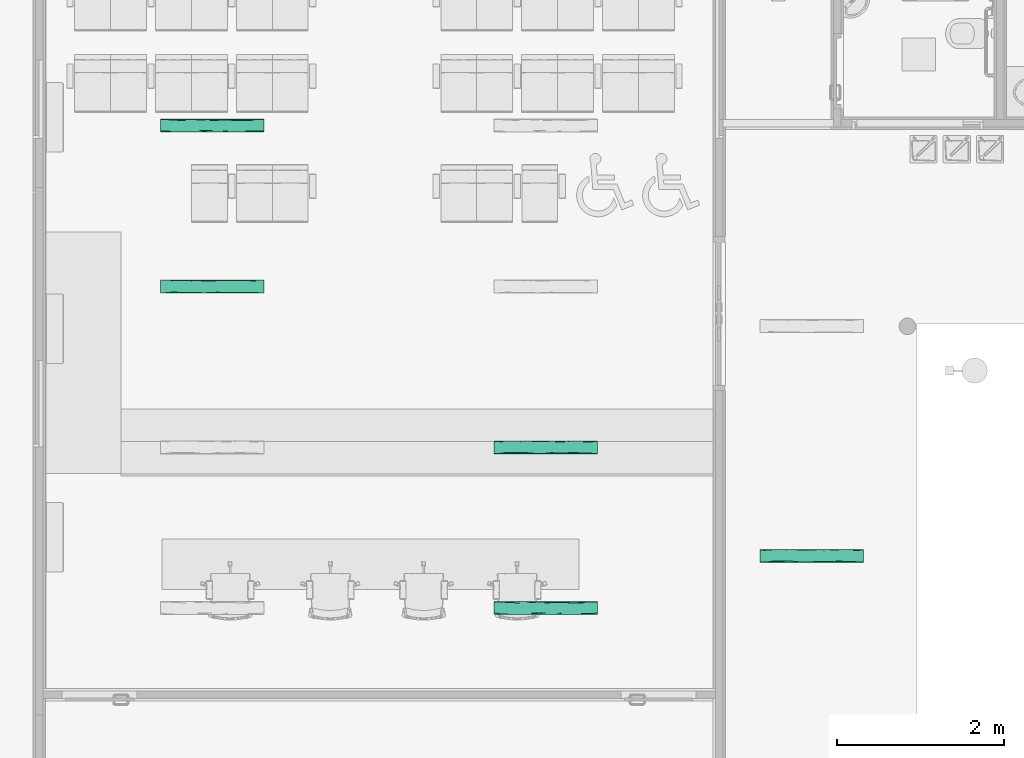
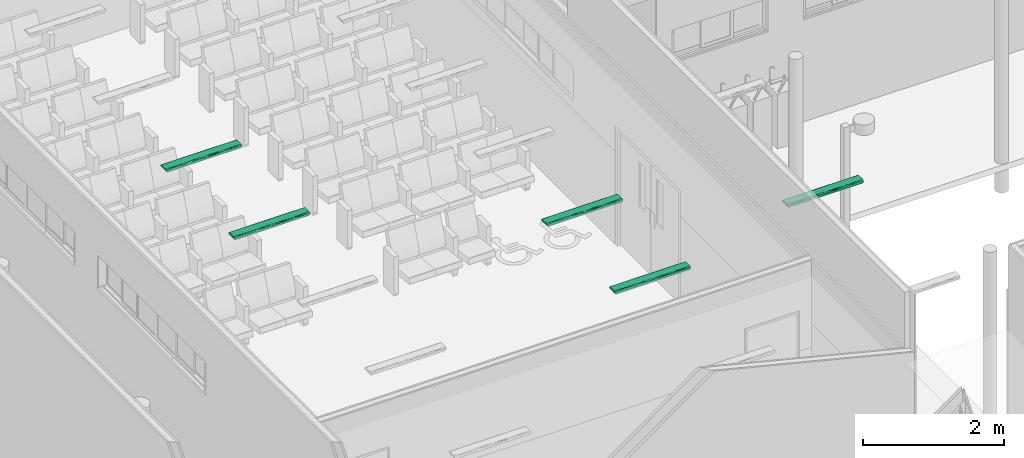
# One storey, part 58 of 155: 5 flow terminals.
"""IFC2X3 building model written with IfcOpenShell, lengths in metres."""

import ifcopenshell
import ifcopenshell.guid

model = None  # the IFC model being written
_history = None  # IfcOwnerHistory: only IFC2X3 demands one
_inside = {}  # id of a spatial element -> (the spatial element, [elements in it])
_under = {}  # id of a project, library or spatial element -> (it, [spatial elements below it])
_declared = {}  # id of a project -> (the project, [libraries it declares])
_typed = {}  # id of a type object -> (the type object, [elements of that type])
_made_of = {}  # id of a material, layer set ... -> (it, [elements and type objects made of it])


def new_model(schema):
    """Start an empty IFC model of exactly this schema.

    Asked for "IFC4X3", IfcOpenShell would pick the latest addendum, in which some entities
    have other attributes; the version numbers below select the first issue.
    IFC2X3 requires an IfcOwnerHistory on every rooted entity: one is made here for all.
    """
    global model, _history
    if schema == "IFC4X3":
        model = ifcopenshell.file(schema_version=(4, 3, 0, 0))
    else:
        model = ifcopenshell.file(schema=schema)
    _inside.clear()
    _under.clear()
    _declared.clear()
    _typed.clear()
    _made_of.clear()
    _history = None
    if model.schema == "IFC2X3":
        org = make("IfcOrganization", Name="unknown")
        user = make(
            "IfcPersonAndOrganization",
            ThePerson=make("IfcPerson", FamilyName="unknown"),
            TheOrganization=org,
        )
        app = make(
            "IfcApplication",
            ApplicationDeveloper=org,
            Version="unknown",
            ApplicationFullName="unknown",
            ApplicationIdentifier="unknown",
        )
        _history = make(
            "IfcOwnerHistory",
            OwningUser=user,
            OwningApplication=app,
            ChangeAction="ADDED",
            CreationDate=0,
        )
    return model


def make(cls, **values):
    """One entity of the class cls with the attributes given. An attribute that is None is left unset."""
    return model.create_entity(
        cls, **{name: value for name, value in values.items() if value is not None}
    )


def entity(cls, *values):
    """Any entity or typed value of the class cls, its attributes in the order of the schema. None: left unset."""
    e = model.create_entity(cls)
    for i, value in enumerate(values):
        if value is not None:
            e[i] = value
    return e


def rooted(cls, **values):
    """An entity with a GlobalId (a new one), such as an element, a storey or a relation."""
    return make(cls, GlobalId=ifcopenshell.guid.new(), OwnerHistory=_history, **values)


def si_unit(unit_type, name, prefix=None):
    """IfcSIUnit, for example si_unit("LENGTHUNIT", "METRE", prefix="MILLI")."""
    return make("IfcSIUnit", UnitType=unit_type, Prefix=prefix, Name=name)


def converted_unit(unit_type, name, factor, base, dimensions=None, offset=None):
    """IfcConversionBasedUnit, such as the inch: factor (a typed value) times the base unit."""
    return make(
        "IfcConversionBasedUnit"
        if offset is None
        else "IfcConversionBasedUnitWithOffset",
        ConversionOffset=offset,
        Dimensions=None
        if dimensions is None
        else entity("IfcDimensionalExponents", *dimensions),
        UnitType=unit_type,
        Name=name,
        ConversionFactor=make(
            "IfcMeasureWithUnit", ValueComponent=factor, UnitComponent=base
        ),
    )


def derived_unit(unit_type, elements):
    """IfcDerivedUnit: a product of units, each with its exponent."""
    return make(
        "IfcDerivedUnit",
        Elements=[
            make("IfcDerivedUnitElement", Unit=unit, Exponent=power)
            for unit, power in elements
        ],
        UnitType=unit_type,
    )


def assignment(units):
    """IfcUnitAssignment: the units of a project."""
    return None if units is None else make("IfcUnitAssignment", Units=units)


def point(xyz):
    """IfcCartesianPoint."""
    return None if xyz is None else make("IfcCartesianPoint", Coordinates=xyz)


def direction(xyz):
    """IfcDirection."""
    return None if xyz is None else make("IfcDirection", DirectionRatios=xyz)


def frame(location, z_axis=None, x_axis=None):
    """IfcAxis2Placement3D, a coordinate frame: its origin and axes. An axis left out is left unset."""
    return make(
        "IfcAxis2Placement3D",
        Location=point(location),
        Axis=direction(z_axis),
        RefDirection=direction(x_axis),
    )


def origin():
    """The frame at (0, 0, 0) with its axes left unset."""
    return frame((0.0, 0.0, 0.0))


def place(relative_to, where):
    """IfcLocalPlacement: puts the frame where relative to a parent placement (None: the world)."""
    return make(
        "IfcLocalPlacement", PlacementRelTo=relative_to, RelativePlacement=where
    )


def context(
    kind, dimensions, precision=None, world=None, true_north=None, identifier=None
):
    """IfcGeometricRepresentationContext, for example the 3D "Model" context."""
    return make(
        "IfcGeometricRepresentationContext",
        ContextIdentifier=identifier,
        ContextType=kind,
        CoordinateSpaceDimension=dimensions,
        Precision=precision,
        WorldCoordinateSystem=world,
        TrueNorth=true_north,
    )


def subcontext(parent, identifier, kind, view, scale=None):
    """IfcGeometricRepresentationSubContext, for example "Body" below "Model"."""
    return make(
        "IfcGeometricRepresentationSubContext",
        ContextIdentifier=identifier,
        ContextType=kind,
        ParentContext=parent,
        TargetScale=scale,
        TargetView=view,
    )


def project(units=None, contexts=None):
    """IfcProject with its units and contexts."""
    return rooted(
        "IfcProject",
        Name="project",
        RepresentationContexts=contexts,
        UnitsInContext=assignment(units),
    )


def spatial(cls, under=None, at=None, **own):
    """A site, building, storey or space (cls), placed at a placement, below another one or the project."""
    s = rooted(cls, ObjectPlacement=at, **own)
    if under is not None:
        _under.setdefault(under.id(), (under, []))[1].append(s)
    return s


def faces_of(points, faces, orient=None, outer=None):
    """IfcFace entities. A face is a list of loops; a loop is a list of indices into points, from 0.

    orient and outer hold one flag for each loop. By default every Orientation is true, the
    first loop of a face is its IfcFaceOuterBound and the others are IfcFaceBound.
    """
    made = []
    for i, loops in enumerate(faces):
        bounds = []
        for j, loop in enumerate(loops):
            is_outer = j == 0 if outer is None else outer[i][j]
            bounds.append(
                make(
                    "IfcFaceOuterBound" if is_outer else "IfcFaceBound",
                    Bound=make("IfcPolyLoop", Polygon=[points[k] for k in loop]),
                    Orientation=True if orient is None else orient[i][j],
                )
            )
        made.append(make("IfcFace", Bounds=bounds))
    return made


def faceted_brep(points, faces, orient=None, outer=None, voids=None):
    """IfcFacetedBrep: a solid bounded by flat faces; with voids (closed shells), ...WithVoids."""
    shared = [point(p) for p in points]
    hull = make("IfcClosedShell", CfsFaces=faces_of(shared, faces, orient, outer))
    if voids is None:
        return make("IfcFacetedBrep", Outer=hull)
    return make(
        "IfcFacetedBrepWithVoids",
        Outer=hull,
        Voids=[
            make(cls, CfsFaces=faces_of(shared, fs, o, b)) for cls, fs, o, b in voids
        ],
    )


def shape(context_of_items, identifier, shape_type, items):
    """IfcShapeRepresentation: the items that make up one representation, for example the "Body"."""
    return make(
        "IfcShapeRepresentation",
        ContextOfItems=context_of_items,
        RepresentationIdentifier=identifier,
        RepresentationType=shape_type,
        Items=items,
    )


def source(mapping_origin, context_of_items, identifier, shape_type, items):
    """IfcRepresentationMap: a shape defined once, which mapped items show again and again."""
    return make(
        "IfcRepresentationMap",
        MappingOrigin=mapping_origin,
        MappedRepresentation=shape(context_of_items, identifier, shape_type, items),
    )


def transform(
    local_origin,
    x_axis=None,
    y_axis=None,
    z_axis=None,
    scale=None,
    scale2=None,
    scale3=None,
    uniform=True,
):
    """IfcCartesianTransformationOperator3D, or its non-uniform kind. x_axis, y_axis, z_axis: its Axis1, 2, 3."""
    if uniform:
        return make(
            "IfcCartesianTransformationOperator3D",
            Axis1=direction(x_axis),
            Axis2=direction(y_axis),
            LocalOrigin=point(local_origin),
            Scale=scale,
            Axis3=direction(z_axis),
        )
    return make(
        "IfcCartesianTransformationOperator3DnonUniform",
        Axis1=direction(x_axis),
        Axis2=direction(y_axis),
        LocalOrigin=point(local_origin),
        Scale=scale,
        Axis3=direction(z_axis),
        Scale2=scale2,
        Scale3=scale3,
    )


def mapped(mapping_source, mapping_target):
    """IfcMappedItem: shows the shape of a source again, moved by a transform."""
    return make(
        "IfcMappedItem", MappingSource=mapping_source, MappingTarget=mapping_target
    )


def material(Name=None, Category=None):
    """IfcMaterial."""
    return make("IfcMaterial", Name=Name, Category=Category)


def material_list(materials):
    """IfcMaterialList."""
    return make("IfcMaterialList", Materials=materials)


def made_of(thing, what):
    """Note that an element or type object is made of a material, layer set ...; save() writes the relation."""
    if what is not None:
        _made_of.setdefault(what.id(), (what, []))[1].append(thing)
    return thing


def type_object(cls, material=None, **own):
    """A type object (cls), such as IfcWallType, which elements share."""
    return made_of(rooted(cls, **own), material)


def type_shapes(of_type, sources):
    """Give a type object the sources (RepresentationMaps) that its elements show as mapped items."""
    of_type.RepresentationMaps = sources


def element(
    cls,
    number,
    at=None,
    inside=None,
    cuts=None,
    type_object=None,
    material=None,
    context=None,
    identifier="Body",
    shape_type=None,
    held_by="IfcProductDefinitionShape",
    body=None,
    shapes=None,
    **own,
):
    """One element of the class cls, such as IfcWall. Its Tag is "e" and its number.

    at: its placement. inside: the storey or other place that contains it. cuts: it is an
    opening in that element (IfcRelVoidsElement). A single representation is given by context,
    identifier, shape_type and body (its items); several are given by shapes. held_by: the class
    of the entity that holds the representations. save() writes the other relations.
    """
    e = rooted(cls, Tag="e%d" % number, ObjectPlacement=at, **own)
    if body is not None:
        shapes = [shape(context, identifier, shape_type, body)]
    if shapes is not None:
        e.Representation = make(held_by, Representations=shapes)
    if inside is not None:
        _inside.setdefault(inside.id(), (inside, []))[1].append(e)
    if cuts is not None:
        rooted(
            "IfcRelVoidsElement", RelatingBuildingElement=cuts, RelatedOpeningElement=e
        )
    if type_object is not None:
        _typed.setdefault(type_object.id(), (type_object, []))[1].append(e)
    return made_of(e, material)


def aggregate(whole, parts):
    """IfcRelAggregates: a whole, such as a stair, and the parts it consists of."""
    return rooted("IfcRelAggregates", RelatingObject=whole, RelatedObjects=parts)


def save(model, path):
    """Write the relations noted so far, then the file.

    IfcRelAggregates (storeys below a building ...), IfcRelContainedInSpatialStructure (elements
    in a storey), IfcRelDefinesByType, IfcRelAssociatesMaterial and IfcRelDeclares: one each for
    every whole, place, type object, material and project.
    """
    for whole, parts in _under.values():
        aggregate(whole, parts)
    for where, things in _inside.values():
        rooted(
            "IfcRelContainedInSpatialStructure",
            RelatedElements=things,
            RelatingStructure=where,
        )
    for kind, things in _typed.values():
        rooted("IfcRelDefinesByType", RelatedObjects=things, RelatingType=kind)
    for what, things in _made_of.values():
        rooted("IfcRelAssociatesMaterial", RelatedObjects=things, RelatingMaterial=what)
    for by, libraries in _declared.values():
        rooted("IfcRelDeclares", RelatingContext=by, RelatedDefinitions=libraries)
    model.write(path)


model = new_model("IFC2X3")

# Units and contexts
model_context = context("Model", 3, precision=1e-05, world=origin(), true_north=direction((6.12303176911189e-17, 1.0)))
body_context = subcontext(model_context, "Body", "Model", "MODEL_VIEW")
ifc_project = project(units=[si_unit("LENGTHUNIT", "METRE"), si_unit("AREAUNIT", "SQUARE_METRE"), si_unit("VOLUMEUNIT", "CUBIC_METRE"), converted_unit("PLANEANGLEUNIT", "DEGREE", entity("IfcRatioMeasure", 0.0174532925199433), si_unit("PLANEANGLEUNIT", "RADIAN"), dimensions=[0, 0, 0, 0, 0, 0, 0]), si_unit("MASSUNIT", "GRAM", prefix="KILO"), derived_unit("MASSDENSITYUNIT", [(si_unit("MASSUNIT", "GRAM", prefix="KILO"), 1), (si_unit("LENGTHUNIT", "METRE"), -3)]), si_unit("TIMEUNIT", "SECOND"), si_unit("FREQUENCYUNIT", "HERTZ"), si_unit("THERMODYNAMICTEMPERATUREUNIT", "DEGREE_CELSIUS"), derived_unit("THERMALTRANSMITTANCEUNIT", [(si_unit("MASSUNIT", "GRAM", prefix="KILO"), 1), (si_unit("THERMODYNAMICTEMPERATUREUNIT", "KELVIN"), -1), (si_unit("TIMEUNIT", "SECOND"), -3)]), derived_unit("VOLUMETRICFLOWRATEUNIT", [(si_unit("LENGTHUNIT", "METRE"), 3), (si_unit("TIMEUNIT", "SECOND"), -1)]), si_unit("ELECTRICCURRENTUNIT", "AMPERE"), si_unit("ELECTRICVOLTAGEUNIT", "VOLT"), si_unit("POWERUNIT", "WATT"), si_unit("FORCEUNIT", "NEWTON", prefix="KILO"), si_unit("ILLUMINANCEUNIT", "LUX"), si_unit("LUMINOUSFLUXUNIT", "LUMEN"), si_unit("LUMINOUSINTENSITYUNIT", "CANDELA"), derived_unit("USERDEFINED", [(si_unit("MASSUNIT", "GRAM", prefix="KILO"), -1), (si_unit("LENGTHUNIT", "METRE"), -2), (si_unit("TIMEUNIT", "SECOND"), 3), (si_unit("LUMINOUSFLUXUNIT", "LUMEN"), 1)]), derived_unit("LINEARVELOCITYUNIT", [(si_unit("LENGTHUNIT", "METRE"), 1), (si_unit("TIMEUNIT", "SECOND"), -1)]), si_unit("PRESSUREUNIT", "PASCAL"), derived_unit("USERDEFINED", [(si_unit("LENGTHUNIT", "METRE"), -2), (si_unit("MASSUNIT", "GRAM", prefix="KILO"), 1), (si_unit("TIMEUNIT", "SECOND"), -2)])], contexts=[model_context])

# Site, building, storey, space
site_placement = place(None, frame((26.9889013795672, -17.5624287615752, 0.0)))
site = spatial("IfcSite", under=ifc_project, at=site_placement, Name="Default", CompositionType="ELEMENT")
building_placement = place(site_placement, origin())
building = spatial("IfcBuilding", under=site, at=building_placement, Name="C. C. L. Monsenhor Antônio Sampaio", CompositionType="ELEMENT")
storey_placement = place(building_placement, frame((0.0, 0.0, 1.19999999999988)))
storey = spatial("IfcBuildingStorey", under=building, at=storey_placement, Name="Nível 1.2", CompositionType="ELEMENT", Elevation=1.19999999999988)
space_1_placement = place(storey_placement, origin())
space_1 = spatial("IfcSpace", under=storey, at=space_1_placement, Name="94", CompositionType="ELEMENT", InteriorOrExteriorSpace="INTERNAL")

# Flow terminals
ifc_material_1 = material(Name="glass - blue - t85")
ifc_material_2 = material(Name="metal - aluminium")
ifc_material_list_1 = material_list([ifc_material_1, ifc_material_2])
ifc_material_list_2 = material_list([ifc_material_1, ifc_material_2])
light_fixture_type = type_object("IfcLightFixtureType", Name="BCS460 W16L124 1xLED24/840 MLO-PC", PredefinedType="NOTDEFINED", material=ifc_material_list_2)
shared_shape = source(origin(), body_context, "Body", "Brep", [
    faceted_brep([(0.585000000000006, 0.0435000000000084, -0.0460000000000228), (0.585000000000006, -0.0434999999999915, -0.0460000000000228), (0.585000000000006, -0.0434999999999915, -0.0490000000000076), (0.585000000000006, 0.0435000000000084, -0.0490000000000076), (-0.584999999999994, 0.0435000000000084, -0.0460000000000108), (-0.584999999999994, 0.0435000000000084, -0.0489999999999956), (-0.584999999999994, -0.0434999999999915, -0.0489999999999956), (-0.584999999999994, -0.0434999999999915, -0.0460000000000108)], [[[0, 1, 2, 3]], [[4, 5, 6, 7]], [[3, 5, 4, 0]], [[2, 6, 5, 3]], [[1, 7, 6, 2]], [[0, 4, 7, 1]]]),
    faceted_brep([(-0.584999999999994, -0.0434999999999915, -0.0489999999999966), (0.585000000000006, -0.0434999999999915, -0.0490000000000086), (0.585000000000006, -0.0554999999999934, -0.0490000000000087), (0.417543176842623, -0.0554999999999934, -0.0490000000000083), (0.334912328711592, -0.0554999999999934, -0.0490000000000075), (0.209867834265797, -0.0554999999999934, -0.0490000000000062), (0.0848246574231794, -0.0554999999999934, -0.0490000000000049), (-0.0826321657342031, -0.0554999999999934, -0.0490000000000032), (-0.250087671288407, -0.0554999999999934, -0.0490000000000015), (-0.417543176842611, -0.0554999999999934, -0.0489999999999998), (-0.584999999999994, -0.0554999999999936, -0.0489999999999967), (-0.584999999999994, 0.0435000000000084, -0.0489999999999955), (-0.584999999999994, 0.0555000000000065, -0.0489999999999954), (-0.417543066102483, 0.0555000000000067, -0.0489999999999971), (-0.334913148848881, 0.0555000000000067, -0.048999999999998), (-0.209868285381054, 0.0555000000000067, -0.0489999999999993), (-0.0848248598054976, 0.0555000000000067, -0.0490000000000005), (0.0826306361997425, 0.0555000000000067, -0.0490000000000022), (0.250087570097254, 0.0555000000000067, -0.049000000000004), (0.417544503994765, 0.0555000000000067, -0.0490000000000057), (0.585000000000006, 0.0555000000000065, -0.0490000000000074), (0.585000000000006, 0.0435000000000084, -0.0490000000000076), (0.585000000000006, -0.0434999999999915, -0.0190000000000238), (0.585000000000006, 0.0435000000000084, -0.0190000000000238), (0.585000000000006, 0.0614528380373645, -0.0482162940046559), (0.585000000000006, 0.0670000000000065, -0.0459185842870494), (0.585000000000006, 0.0717634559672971, -0.0422634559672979), (0.585000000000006, 0.0754185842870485, -0.0375000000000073), (0.585000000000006, 0.077716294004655, -0.0319528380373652), (0.585000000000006, 0.0785000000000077, -0.0260000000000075), (0.585000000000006, 0.0785000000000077, 0.0), (0.585000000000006, -0.0784999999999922, 0.0), (0.585000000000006, -0.0784999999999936, -0.02600000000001), (0.585000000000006, -0.0777162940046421, -0.031952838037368), (0.585000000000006, -0.0754185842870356, -0.03750000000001), (0.585000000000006, -0.0717634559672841, -0.0422634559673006), (0.585000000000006, -0.0669999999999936, -0.0459185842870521), (0.585000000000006, -0.0614528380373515, -0.0482162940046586), (-0.584999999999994, 0.0435000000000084, -0.0190000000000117), (-0.584999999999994, -0.0434999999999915, -0.0190000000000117), (-0.584999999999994, -0.0614528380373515, -0.0482162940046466), (-0.584999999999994, -0.0669999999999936, -0.0459185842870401), (-0.584999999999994, -0.0717634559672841, -0.0422634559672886), (-0.584999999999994, -0.0754185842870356, -0.037499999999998), (-0.584999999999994, -0.0777162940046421, -0.031952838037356), (-0.584999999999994, -0.0784999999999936, -0.025999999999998), (-0.584999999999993, -0.0784999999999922, 0.0), (-0.584999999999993, 0.0785000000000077, 0.0), (-0.584999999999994, 0.0785000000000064, -0.0259999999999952), (-0.584999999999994, 0.077716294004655, -0.0319528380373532), (-0.584999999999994, 0.0754185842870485, -0.0374999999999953), (-0.584999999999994, 0.0717634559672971, -0.0422634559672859), (-0.584999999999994, 0.0670000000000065, -0.0459185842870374), (-0.584999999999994, 0.0614528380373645, -0.0482162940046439), (0.417543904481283, 0.0785000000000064, -0.0260000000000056), (0.334912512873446, 0.0785000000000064, -0.0260000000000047), (0.209868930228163, 0.0785000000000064, -0.0260000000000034), (0.0848250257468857, 0.0785000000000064, -0.0260000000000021), (-0.0826310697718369, 0.0785000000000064, -0.0260000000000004), (-0.250087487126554, 0.0785000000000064, -0.0259999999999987), (-0.417543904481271, 0.0785000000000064, -0.025999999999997), (-0.430283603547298, 0.073747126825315, -0.0400015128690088), (-0.39346878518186, 0.069501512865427, -0.0442471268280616), (-0.441987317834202, 0.0643017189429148, -0.0472492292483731), (-0.435801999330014, 0.0759760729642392, -0.0364752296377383), (0.43028360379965, 0.0695015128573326, -0.0442471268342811), (0.393468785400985, 0.0737471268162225, -0.0400015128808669), (-0.166359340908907, 0.0777768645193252, -0.0317220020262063), (-0.333815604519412, 0.078144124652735, -0.0300303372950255), (0.441987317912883, 0.0767492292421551, -0.0348017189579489), (0.376228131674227, 0.0780233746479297, -0.0306580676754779), (-0.0103058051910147, 0.0779837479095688, -0.0308457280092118), (0.147346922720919, 0.0778835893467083, -0.0312891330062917), (0.0846877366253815, 0.0752228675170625, -0.0378325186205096), (0.113930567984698, 0.0669406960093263, -0.0459527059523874), (0.259392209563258, 0.0628104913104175, -0.0478072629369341), (0.138751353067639, 0.0626656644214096, -0.0478552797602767), (-0.327642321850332, 0.0767492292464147, -0.0348017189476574), (-0.44845841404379, 0.0775260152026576, -0.0326222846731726), (0.274715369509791, 0.0767492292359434, -0.0348017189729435), (0.37104983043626, 0.0643017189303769, -0.0472492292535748), (0.333815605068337, 0.0596187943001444, -0.0486282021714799), (0.0893720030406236, 0.0707479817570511, -0.0432191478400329), (-0.0153938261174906, 0.0683034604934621, -0.0451068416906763), (-0.376228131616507, 0.0601580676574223, -0.0485233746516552), (0.0434325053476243, 0.059742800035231, -0.048605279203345), (0.218757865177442, 0.0695015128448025, -0.0442471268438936), (0.464656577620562, 0.0597129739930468, -0.0486108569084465), (0.199843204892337, 0.0732493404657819, -0.0406274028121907), (-0.274715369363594, 0.0643017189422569, -0.0472492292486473), (-0.115235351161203, 0.073747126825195, -0.0400015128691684), (-0.150791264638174, 0.070206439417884, -0.0436839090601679), (-0.272759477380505, 0.0724713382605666, -0.0415233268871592), (-0.00814072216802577, 0.0636892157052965, -0.0474927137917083), (-0.14734692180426, 0.0607891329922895, -0.0483835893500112), (-0.269938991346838, 0.0692956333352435, -0.0444032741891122), (-0.201904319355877, 0.0758204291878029, -0.0367740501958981), (-0.0663340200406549, 0.0763921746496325, -0.0356185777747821), (-0.139314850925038, 0.066006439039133, -0.046460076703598), (-0.430283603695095, -0.0695015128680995, -0.0442471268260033), (-0.393468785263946, -0.073747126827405, -0.0400015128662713), (-0.44198731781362, -0.0767492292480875, -0.0348017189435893), (-0.435801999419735, -0.06597522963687, -0.0464760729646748), (0.430283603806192, -0.0737471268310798, -0.0400015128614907), (0.393468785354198, -0.0695015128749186, -0.0442471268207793), (-0.166359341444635, -0.061222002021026, -0.0482768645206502), (-0.333815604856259, -0.0595303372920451, -0.0486441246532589), (0.441987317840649, -0.0643017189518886, -0.0472492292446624), (0.37622813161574, -0.0601580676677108, -0.0485233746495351), (-0.0103058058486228, -0.0603457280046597, -0.0484837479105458), (0.147346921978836, -0.0607891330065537, -0.0483835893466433), (0.0846877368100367, -0.0673325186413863, -0.0457228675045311), (0.113930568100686, -0.0754527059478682, -0.0374406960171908), (0.259392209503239, -0.0773072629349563, -0.0333104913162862), (0.138751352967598, -0.0773552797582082, -0.0331656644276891), (-0.327642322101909, -0.0643017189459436, -0.047249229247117), (-0.448458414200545, -0.062122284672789, -0.048026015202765), (-0.417543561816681, -0.0784999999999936, -0.0259999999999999), (0.274715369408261, -0.0643017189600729, -0.0472492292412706), (0.371049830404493, -0.0767492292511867, -0.0348017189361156), (0.333815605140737, -0.0781282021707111, -0.0301187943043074), (0.250087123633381, -0.0784999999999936, -0.0260000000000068), (0.0893720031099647, -0.0727191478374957, -0.041247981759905), (-0.0153938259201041, -0.074606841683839, -0.0388034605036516), (-0.376228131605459, -0.0780233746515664, -0.0306580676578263), (0.0826306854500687, -0.0784999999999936, -0.026000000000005), (-0.0848257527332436, -0.0784999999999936, -0.0260000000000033), (0.0434325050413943, -0.0781052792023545, -0.030242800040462), (0.417543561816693, -0.0784999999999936, -0.0260000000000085), (0.21875786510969, -0.0737471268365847, -0.0400015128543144), (0.464656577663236, -0.0781108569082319, -0.0302129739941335), (0.19984320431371, -0.0701274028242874, -0.0437493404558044), (-0.274715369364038, -0.0767492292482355, -0.0348017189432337), (-0.115235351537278, -0.0695015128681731, -0.0442471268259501), (-0.150791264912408, -0.0731839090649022, -0.0407064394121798), (-0.209869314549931, -0.0784999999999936, -0.026000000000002), (-0.334912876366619, -0.0784999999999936, -0.0260000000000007), (-0.272759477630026, -0.071023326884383, -0.0429713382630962), (-0.00814072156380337, -0.0769927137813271, -0.0341892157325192), (-0.147346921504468, -0.0778835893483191, -0.03128913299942), (-0.269938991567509, -0.0739032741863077, -0.0397956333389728), (-0.201904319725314, -0.0662740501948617, -0.0463204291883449), (-0.0663340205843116, -0.0651185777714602, -0.0468921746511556), (-0.139314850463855, -0.0759600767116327, -0.0365064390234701)], [[[0, 1, 2, 3, 4, 5, 6, 7, 8, 9, 10]], [[11, 12, 13, 14, 15, 16, 17, 18, 19, 20, 21]], [[22, 23, 21, 20, 24, 25, 26, 27, 28, 29, 30, 31, 32, 33, 34, 35, 36, 37, 2, 1]], [[12, 11, 38, 39, 0, 10, 40, 41, 42, 43, 44, 45, 46, 47, 48, 49, 50, 51, 52, 53]], [[47, 30, 29, 54, 55, 56, 57, 58, 59, 60, 48]], [[61, 51, 50]], [[62, 51, 61]], [[51, 62, 52]], [[62, 63, 52]], [[63, 53, 52]], [[61, 50, 64]], [[26, 65, 66]], [[26, 25, 65]], [[54, 29, 28]], [[67, 68, 59]], [[69, 70, 28]], [[71, 72, 73]], [[74, 75, 76]], [[26, 66, 27]], [[77, 78, 68]], [[13, 12, 53]], [[69, 27, 66]], [[79, 73, 72]], [[24, 80, 25]], [[70, 79, 72]], [[69, 28, 27]], [[75, 81, 18]], [[82, 74, 83]], [[63, 84, 53]], [[17, 16, 85]], [[19, 18, 81]], [[75, 74, 86]], [[87, 81, 80]], [[73, 79, 88]], [[70, 56, 55, 54]], [[80, 86, 65]], [[89, 63, 62]], [[90, 83, 91]], [[84, 15, 14, 13]], [[61, 77, 92]], [[59, 68, 60]], [[78, 49, 48]], [[20, 87, 24]], [[93, 76, 85]], [[66, 65, 86]], [[65, 25, 80]], [[62, 61, 92]], [[77, 64, 78]], [[92, 90, 91]], [[89, 94, 84]], [[28, 70, 54]], [[79, 69, 66]], [[53, 84, 13]], [[91, 95, 92]], [[96, 90, 92]], [[56, 72, 57]], [[70, 69, 79]], [[70, 72, 56]], [[67, 59, 58]], [[71, 67, 58]], [[71, 58, 57]], [[83, 90, 82]], [[88, 82, 73]], [[96, 97, 90]], [[71, 73, 97]], [[15, 94, 16]], [[84, 63, 89]], [[84, 94, 15]], [[98, 83, 93]], [[83, 98, 91]], [[18, 17, 76]], [[62, 92, 95]], [[98, 95, 91]], [[98, 94, 89]], [[74, 76, 93]], [[93, 94, 98]], [[85, 16, 94]], [[19, 81, 87]], [[80, 81, 75]], [[19, 87, 20]], [[24, 87, 80]], [[78, 48, 60]], [[77, 68, 67]], [[68, 78, 60]], [[49, 78, 50]], [[78, 64, 50]], [[64, 77, 61]], [[94, 93, 85]], [[85, 76, 17]], [[97, 67, 71]], [[72, 71, 57]], [[77, 67, 96]], [[90, 97, 73]], [[97, 96, 67]], [[77, 96, 92]], [[80, 75, 86]], [[76, 75, 18]], [[95, 89, 62]], [[89, 95, 98]], [[86, 74, 82]], [[83, 74, 93]], [[86, 82, 88]], [[73, 82, 90]], [[88, 66, 86]], [[66, 88, 79]], [[99, 42, 41]], [[100, 42, 99]], [[42, 100, 43]], [[100, 101, 43]], [[101, 44, 43]], [[99, 41, 102]], [[35, 103, 104]], [[35, 34, 103]], [[3, 2, 37]], [[105, 106, 8]], [[107, 108, 37]], [[109, 110, 111]], [[112, 113, 114]], [[35, 104, 36]], [[115, 116, 106]], [[117, 45, 44]], [[107, 36, 104]], [[118, 111, 110]], [[33, 119, 34]], [[108, 118, 110]], [[107, 37, 36]], [[113, 120, 121]], [[122, 112, 123]], [[101, 124, 44]], [[125, 126, 127]], [[128, 121, 120]], [[113, 112, 129]], [[130, 120, 119]], [[111, 118, 131]], [[108, 5, 4, 3]], [[119, 129, 103]], [[132, 101, 100]], [[133, 123, 134]], [[124, 135, 136, 117]], [[99, 115, 137]], [[8, 106, 9]], [[116, 40, 10]], [[32, 130, 33]], [[138, 114, 127]], [[104, 103, 129]], [[103, 34, 119]], [[100, 99, 137]], [[115, 102, 116]], [[137, 133, 134]], [[132, 139, 124]], [[37, 108, 3]], [[118, 107, 104]], [[44, 124, 117]], [[134, 140, 137]], [[141, 133, 137]], [[5, 110, 6]], [[108, 107, 118]], [[108, 110, 5]], [[105, 8, 7]], [[109, 105, 7]], [[109, 7, 6]], [[123, 133, 122]], [[131, 122, 111]], [[141, 142, 133]], [[109, 111, 142]], [[135, 139, 126]], [[124, 101, 132]], [[124, 139, 135]], [[143, 123, 138]], [[123, 143, 134]], [[121, 125, 114]], [[100, 137, 140]], [[143, 140, 134]], [[143, 139, 132]], [[112, 114, 138]], [[138, 139, 143]], [[127, 126, 139]], [[128, 120, 130]], [[119, 120, 113]], [[128, 130, 32]], [[33, 130, 119]], [[116, 10, 9]], [[115, 106, 105]], [[106, 116, 9]], [[40, 116, 41]], [[116, 102, 41]], [[102, 115, 99]], [[139, 138, 127]], [[127, 114, 125]], [[142, 105, 109]], [[110, 109, 6]], [[115, 105, 141]], [[133, 142, 111]], [[142, 141, 105]], [[115, 141, 137]], [[119, 113, 129]], [[114, 113, 121]], [[140, 132, 100]], [[132, 140, 143]], [[129, 112, 122]], [[123, 112, 138]], [[129, 122, 131]], [[111, 122, 133]], [[131, 104, 129]], [[104, 131, 118]], [[31, 46, 45, 117, 136, 135, 126, 125, 121, 128, 32]], [[46, 31, 30, 47]], [[21, 23, 38, 11]], [[22, 1, 0, 39]], [[23, 22, 39, 38]]]),
    faceted_brep([(0.597000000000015, 0.0785000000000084, 0.0), (0.602952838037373, 0.0785000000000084, -0.000783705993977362), (0.608500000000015, 0.0785000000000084, -0.00308141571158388), (0.613263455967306, 0.0785000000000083, -0.00673654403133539), (0.616918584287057, 0.0785000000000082, -0.011499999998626), (0.619216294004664, 0.0785000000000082, -0.017047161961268), (0.620000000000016, 0.0785000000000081, -0.0229999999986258), (0.620000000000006, 0.0785000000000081, -0.0259999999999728), (0.585000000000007, 0.0785000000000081, -0.0259999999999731), (0.585000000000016, 0.0785000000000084, 0.0), (0.619216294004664, -0.0784999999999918, -0.0170471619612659), (0.616918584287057, -0.0784999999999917, -0.0114999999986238), (0.613263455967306, -0.0784999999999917, -0.00673654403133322), (0.608500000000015, -0.0784999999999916, -0.00308141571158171), (0.602952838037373, -0.0784999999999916, -0.000783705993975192), (0.597000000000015, -0.0784999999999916, 0.0), (0.585000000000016, -0.0784999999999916, 0.0), (0.585000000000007, -0.0784999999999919, -0.0260000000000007), (0.620000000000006, -0.0784999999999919, -0.0260000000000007), (0.620000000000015, -0.0784999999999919, -0.0229999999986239), (0.620000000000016, 0.0669999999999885, -0.0459185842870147), (0.620000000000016, 0.0717634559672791, -0.0422634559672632), (0.620000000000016, 0.0754185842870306, -0.0374999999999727), (0.620000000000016, 0.0777162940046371, -0.0319528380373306), (0.620000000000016, -0.0777162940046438, -0.0319528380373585), (0.620000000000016, -0.0754185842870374, -0.0375000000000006), (0.620000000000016, -0.071763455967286, -0.0422634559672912), (0.620000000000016, -0.0669999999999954, -0.0459185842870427), (0.620000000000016, -0.0614528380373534, -0.0482162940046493), (0.620000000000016, -0.0554999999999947, -0.0489999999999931), (0.620000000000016, 0.0554999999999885, -0.0489999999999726), (0.620000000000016, 0.0614528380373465, -0.0482162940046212), (0.585000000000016, 0.0554999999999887, -0.048999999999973), (0.585000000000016, -0.0554999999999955, -0.0490000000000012), (0.585000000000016, -0.0614528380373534, -0.0482162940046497), (0.585000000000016, -0.0669999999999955, -0.0459185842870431), (0.585000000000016, -0.071763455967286, -0.0422634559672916), (0.585000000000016, -0.0754185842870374, -0.0375000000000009), (0.585000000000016, -0.0777162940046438, -0.0319528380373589), (0.585000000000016, 0.0777162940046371, -0.031952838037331), (0.585000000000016, 0.0754185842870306, -0.037499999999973), (0.585000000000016, 0.0717634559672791, -0.0422634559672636), (0.585000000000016, 0.0669999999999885, -0.0459185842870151), (0.585000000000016, 0.0614528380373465, -0.0482162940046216)], [[[0, 1, 2, 3, 4, 5, 6, 7, 8, 9]], [[10, 11, 12, 13, 14, 15, 16, 17, 18, 19]], [[20, 21, 22, 23, 7, 6, 19, 18, 24, 25, 26, 27, 28, 29, 30, 31]], [[32, 33, 34, 35, 36, 37, 38, 17, 16, 9, 8, 39, 40, 41, 42, 43]], [[16, 15, 0, 9]], [[11, 10, 5, 4]], [[12, 11, 4, 3]], [[6, 5, 10, 19]], [[14, 13, 2, 1]], [[15, 14, 1, 0]], [[2, 13, 12, 3]], [[43, 31, 30, 32]], [[43, 42, 20, 31]], [[21, 20, 42, 41]], [[23, 22, 40, 39]], [[7, 23, 39, 8]], [[40, 22, 21, 41]], [[29, 33, 32, 30]], [[25, 24, 38, 37]], [[26, 25, 37, 36]], [[17, 38, 24, 18]], [[28, 27, 35, 34]], [[29, 28, 34, 33]], [[35, 27, 26, 36]]]),
    faceted_brep([(-0.608499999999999, 0.0785000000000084, -0.00308141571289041), (-0.602952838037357, 0.0785000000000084, -0.000783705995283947), (-0.597, 0.0785000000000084, 0.0), (-0.584999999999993, 0.0785000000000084, 0.0), (-0.584999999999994, 0.0785000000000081, -0.0260000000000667), (-0.619999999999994, 0.0785000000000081, -0.0260000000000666), (-0.619999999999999, 0.0785000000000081, -0.0229999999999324), (-0.619216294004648, 0.0785000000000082, -0.0170471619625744), (-0.616918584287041, 0.0785000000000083, -0.0114999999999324), (-0.61326345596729, 0.0785000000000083, -0.00673654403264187), (-0.584999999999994, -0.0784999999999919, -0.0260000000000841), (-0.584999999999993, -0.0784999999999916, 0.0), (-0.596999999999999, -0.0784999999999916, 0.0), (-0.602952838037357, -0.0784999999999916, -0.000783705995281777), (-0.608499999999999, -0.0784999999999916, -0.00308141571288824), (-0.61326345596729, -0.0784999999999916, -0.0067365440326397), (-0.616918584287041, -0.0784999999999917, -0.0114999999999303), (-0.619216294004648, -0.0784999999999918, -0.0170471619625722), (-0.619999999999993, -0.0784999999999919, -0.0229999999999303), (-0.619999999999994, -0.0784999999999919, -0.0260000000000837), (-0.619999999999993, 0.0777162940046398, -0.0319528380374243), (-0.619999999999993, 0.0754185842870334, -0.0375000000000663), (-0.619999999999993, 0.071763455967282, -0.042263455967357), (-0.619999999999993, 0.0669999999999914, -0.0459185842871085), (-0.619999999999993, 0.0614528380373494, -0.048216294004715), (-0.619999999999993, 0.0554999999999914, -0.0490000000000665), (-0.619999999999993, -0.0554999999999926, -0.0490000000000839), (-0.619999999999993, -0.0614528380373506, -0.0482162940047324), (-0.619999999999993, -0.0669999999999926, -0.0459185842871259), (-0.619999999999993, -0.0717634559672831, -0.0422634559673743), (-0.619999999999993, -0.0754185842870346, -0.0375000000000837), (-0.619999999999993, -0.0777162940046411, -0.0319528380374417), (-0.584999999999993, 0.0614528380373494, -0.0482162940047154), (-0.584999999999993, 0.0669999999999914, -0.0459185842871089), (-0.584999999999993, 0.071763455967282, -0.0422634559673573), (-0.584999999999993, 0.0754185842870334, -0.0375000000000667), (-0.584999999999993, 0.0777162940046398, -0.0319528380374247), (-0.584999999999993, -0.0777162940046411, -0.0319528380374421), (-0.584999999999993, -0.0754185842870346, -0.0375000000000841), (-0.584999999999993, -0.0717634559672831, -0.0422634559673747), (-0.584999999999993, -0.0669999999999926, -0.0459185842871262), (-0.584999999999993, -0.0614528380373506, -0.0482162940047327), (-0.584999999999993, -0.0554999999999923, -0.0490000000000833), (-0.584999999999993, 0.0554999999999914, -0.0490000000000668)], [[[0, 1, 2, 3, 4, 5, 6, 7, 8, 9]], [[10, 11, 12, 13, 14, 15, 16, 17, 18, 19]], [[5, 20, 21, 22, 23, 24, 25, 26, 27, 28, 29, 30, 31, 19, 18, 6]], [[32, 33, 34, 35, 36, 4, 3, 11, 10, 37, 38, 39, 40, 41, 42, 43]], [[12, 11, 3, 2]], [[14, 13, 1, 0]], [[15, 14, 0, 9]], [[2, 1, 13, 12]], [[17, 16, 8, 7]], [[18, 17, 7, 6]], [[8, 16, 15, 9]], [[22, 21, 35, 34]], [[36, 20, 5, 4]], [[21, 20, 36, 35]], [[24, 23, 33, 32]], [[25, 24, 32, 43]], [[33, 23, 22, 34]], [[26, 25, 43, 42]], [[28, 27, 41, 40]], [[29, 28, 40, 39]], [[42, 41, 27, 26]], [[31, 30, 38, 37]], [[19, 31, 37, 10]], [[38, 30, 29, 39]]]),
])
type_shapes(light_fixture_type, [shared_shape])
flow_terminal_1_placement = place(space_1_placement, frame((-7.99055229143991, -22.6390663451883, 2.8), z_axis=(0.0, 0.0, -1.0), x_axis=(-1.0, 0.0, 0.0)))
element("IfcFlowTerminal", 1, at=flow_terminal_1_placement, inside=space_1, type_object=light_fixture_type, material=ifc_material_list_1, Name="63_PHILIPS_smartform-LED-surface_f:BCS460 W16L124 1xLED24/840 MLO-PC", ObjectType="BCS460 W16L124 1xLED24/840 MLO-PC", context=body_context, shape_type="MappedRepresentation", body=[
    mapped(shared_shape, transform((0.0, 0.0, 0.0), scale=1.0)),
])
ifc_material_list_3 = material_list([ifc_material_1, ifc_material_2])
flow_terminal_2_placement = place(space_1_placement, frame((-7.99055229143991, -20.7110663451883, 2.8), z_axis=(0.0, 0.0, -1.0), x_axis=(-1.0, 0.0, 0.0)))
element("IfcFlowTerminal", 2, at=flow_terminal_2_placement, inside=space_1, type_object=light_fixture_type, material=ifc_material_list_3, Name="63_PHILIPS_smartform-LED-surface_f:BCS460 W16L124 1xLED24/840 MLO-PC", ObjectType="BCS460 W16L124 1xLED24/840 MLO-PC", context=body_context, shape_type="MappedRepresentation", body=[
    mapped(shared_shape, transform((0.0, 0.0, 0.0), scale=1.0)),
])
ifc_material_list_4 = material_list([ifc_material_1, ifc_material_2])
flow_terminal_3_placement = place(space_1_placement, frame((-11.990552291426, -18.7830663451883, 2.8), z_axis=(0.0, 0.0, -1.0), x_axis=(-1.0, 0.0, 0.0)))
element("IfcFlowTerminal", 3, at=flow_terminal_3_placement, inside=space_1, type_object=light_fixture_type, material=ifc_material_list_4, Name="63_PHILIPS_smartform-LED-surface_f:BCS460 W16L124 1xLED24/840 MLO-PC", ObjectType="BCS460 W16L124 1xLED24/840 MLO-PC", context=body_context, shape_type="MappedRepresentation", body=[
    mapped(shared_shape, transform((0.0, 0.0, 0.0), scale=1.0)),
])
ifc_material_list_5 = material_list([ifc_material_1, ifc_material_2])
flow_terminal_4_placement = place(space_1_placement, frame((-11.990552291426, -16.8550663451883, 2.8), z_axis=(0.0, 0.0, -1.0), x_axis=(-1.0, 0.0, 0.0)))
element("IfcFlowTerminal", 4, at=flow_terminal_4_placement, inside=space_1, type_object=light_fixture_type, material=ifc_material_list_5, Name="63_PHILIPS_smartform-LED-surface_f:BCS460 W16L124 1xLED24/840 MLO-PC", ObjectType="BCS460 W16L124 1xLED24/840 MLO-PC", context=body_context, shape_type="MappedRepresentation", body=[
    mapped(shared_shape, transform((0.0, 0.0, 0.0), scale=1.0)),
])

# Space
space_2_placement = place(storey_placement, origin())
space_2 = spatial("IfcSpace", under=storey, at=space_2_placement, Name="102", CompositionType="ELEMENT", InteriorOrExteriorSpace="INTERNAL")

# Flow terminal
ifc_material_list_6 = material_list([ifc_material_1, ifc_material_2])
flow_terminal_5_placement = place(space_2_placement, frame((-4.80436447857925, -22.0121559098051, 2.8), z_axis=(0.0, 0.0, -1.0), x_axis=(-1.0, 0.0, 0.0)))
element("IfcFlowTerminal", 5, at=flow_terminal_5_placement, inside=space_2, type_object=light_fixture_type, material=ifc_material_list_6, Name="63_PHILIPS_smartform-LED-surface_f:BCS460 W16L124 1xLED24/840 MLO-PC", ObjectType="BCS460 W16L124 1xLED24/840 MLO-PC", context=body_context, shape_type="MappedRepresentation", body=[
    mapped(shared_shape, transform((0.0, 0.0, 0.0), scale=1.0)),
])

save(model, "model.ifc")
